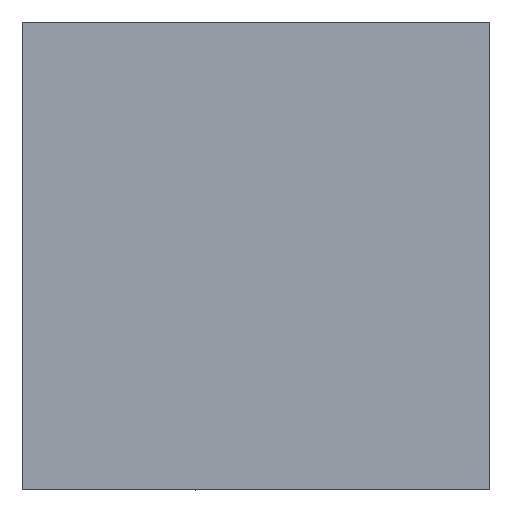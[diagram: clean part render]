
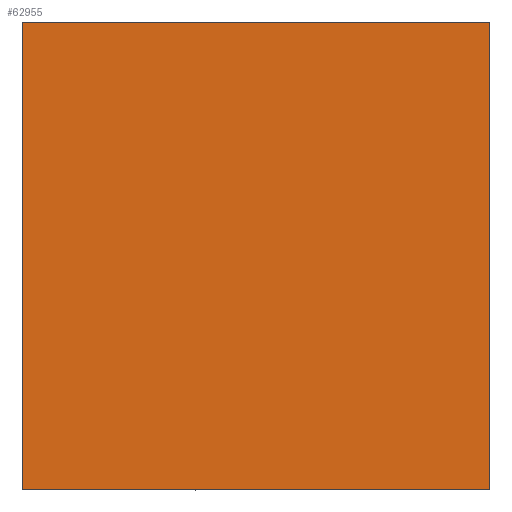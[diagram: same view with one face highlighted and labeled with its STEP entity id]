
A CAD part, left-side view. The second image highlights one B-rep face of the part: STEP entity #62955.
In plain terms, the highlighted planar face has unit normal (-1, 0, 0).
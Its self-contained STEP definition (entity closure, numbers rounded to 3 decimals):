
#2211 = CARTESIAN_POINT ( 'NONE',  ( -75., 20., -10. ) ) ;
#3990 = CARTESIAN_POINT ( 'NONE',  ( -75., 20., 10. ) ) ;
#4455 = EDGE_CURVE ( 'NONE', #51131, #36136, #12173, .T. ) ;
#7067 = ORIENTED_EDGE ( 'NONE', *, *, #62620, .T. ) ;
#8532 = ORIENTED_EDGE ( 'NONE', *, *, #65697, .T. ) ;
#9513 = CARTESIAN_POINT ( 'NONE',  ( -75., 20., 10. ) ) ;
#12173 = LINE ( 'NONE', #31467, #41348 ) ;
#13731 = CARTESIAN_POINT ( 'NONE',  ( -75., 0., 10. ) ) ;
#14496 = LINE ( 'NONE', #9513, #33655 ) ;
#15621 = CARTESIAN_POINT ( 'NONE',  ( -75., 20., 10. ) ) ;
#15950 = DIRECTION ( 'NONE',  ( 1., 0., 0. ) ) ;
#21101 = CARTESIAN_POINT ( 'NONE',  ( -75., 20., 10. ) ) ;
#22165 = DIRECTION ( 'NONE',  ( 0., 0., -1. ) ) ;
#23236 = CARTESIAN_POINT ( 'NONE',  ( -75., 20., -10. ) ) ;
#23558 = LINE ( 'NONE', #23236, #27724 ) ;
#27724 = VECTOR ( 'NONE', #43525, 1000. ) ;
#28107 = CARTESIAN_POINT ( 'NONE',  ( -75., 0., -10. ) ) ;
#30104 = DIRECTION ( 'NONE',  ( 0., 1., 0. ) ) ;
#30470 = AXIS2_PLACEMENT_3D ( 'NONE', #15621, #15950, #41892 ) ;
#31467 = CARTESIAN_POINT ( 'NONE',  ( -75., 0., 10. ) ) ;
#31567 = PLANE ( 'NONE',  #30470 ) ;
#33655 = VECTOR ( 'NONE', #30104, 1000. ) ;
#34449 = VERTEX_POINT ( 'NONE', #2211 ) ;
#36136 = VERTEX_POINT ( 'NONE', #28107 ) ;
#38987 = VECTOR ( 'NONE', #44228, 1000. ) ;
#41348 = VECTOR ( 'NONE', #22165, 1000. ) ;
#41892 = DIRECTION ( 'NONE',  ( 0., 0., 1. ) ) ;
#43525 = DIRECTION ( 'NONE',  ( 0., 1., 0. ) ) ;
#44228 = DIRECTION ( 'NONE',  ( 0., 0., -1. ) ) ;
#51131 = VERTEX_POINT ( 'NONE', #13731 ) ;
#53654 = VERTEX_POINT ( 'NONE', #21101 ) ;
#54411 = EDGE_CURVE ( 'NONE', #36136, #34449, #23558, .T. ) ;
#56831 = FACE_OUTER_BOUND ( 'NONE', #58129, .T. ) ;
#58129 = EDGE_LOOP ( 'NONE', ( #58563, #59138, #8532, #7067 ) ) ;
#58563 = ORIENTED_EDGE ( 'NONE', *, *, #54411, .F. ) ;
#59138 = ORIENTED_EDGE ( 'NONE', *, *, #4455, .F. ) ;
#62620 = EDGE_CURVE ( 'NONE', #53654, #34449, #64785, .T. ) ;
#62955 = ADVANCED_FACE ( 'NONE', ( #56831 ), #31567, .F. ) ;
#64785 = LINE ( 'NONE', #3990, #38987 ) ;
#65697 = EDGE_CURVE ( 'NONE', #51131, #53654, #14496, .T. ) ;
